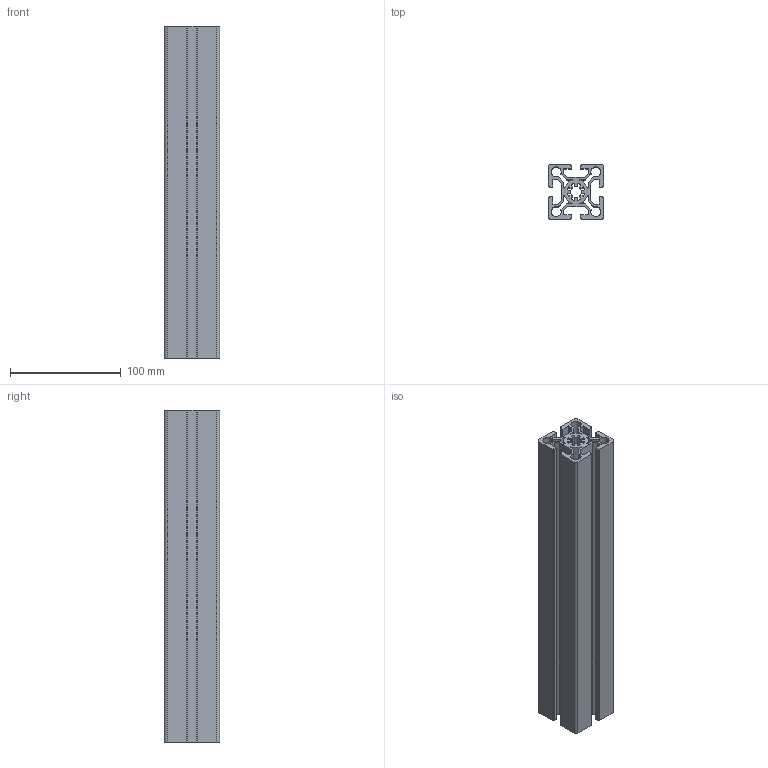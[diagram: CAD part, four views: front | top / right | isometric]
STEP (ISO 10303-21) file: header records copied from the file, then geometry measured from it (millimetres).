
FILE_DESCRIPTION (( 'STEP AP203' ), '1' );
FILE_NAME ('34-CE-5050-8.STEP', '2015-07-07T03:42:25', ( '' ), ( '' ), 'SwSTEP 2.0', 'SolidWorks 2013', '' );
FILE_SCHEMA (( 'CONFIG_CONTROL_DESIGN' ));
Length unit declared in the file: millimetre
Products named in the file (1): 34-CE-5050-8
Bounding box: 50 x 50 x 300 mm (x, y, z)
Volume: 330340 mm3; surface area: 218548.6 mm2
Topology: 1 solids, 1 shells, 141 faces, 417 edges, 278 vertices
Faces by surface type: plane 94, cylinder 47
Entity records: 4802 total; most frequent: CARTESIAN_POINT 837, ORIENTED_EDGE 834, DIRECTION 795, EDGE_CURVE 417, LINE 323, VECTOR 323, VERTEX_POINT 278, AXIS2_PLACEMENT_3D 236
